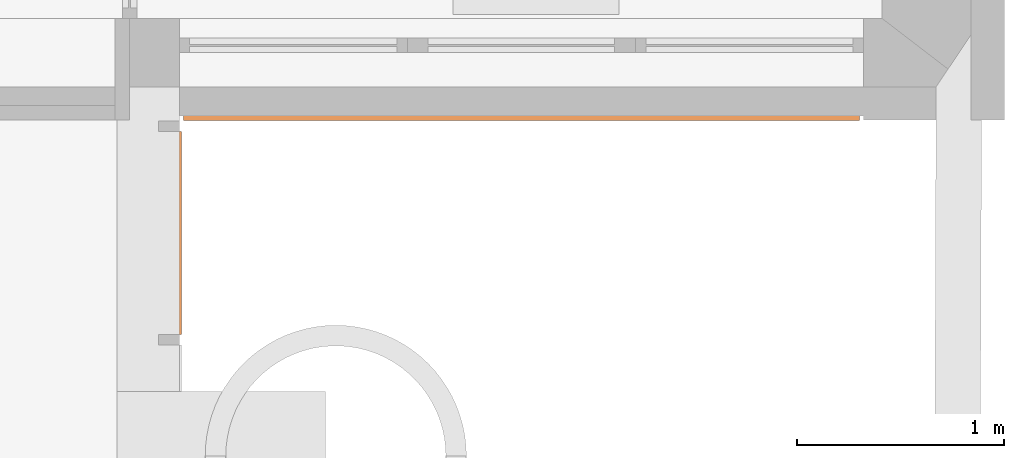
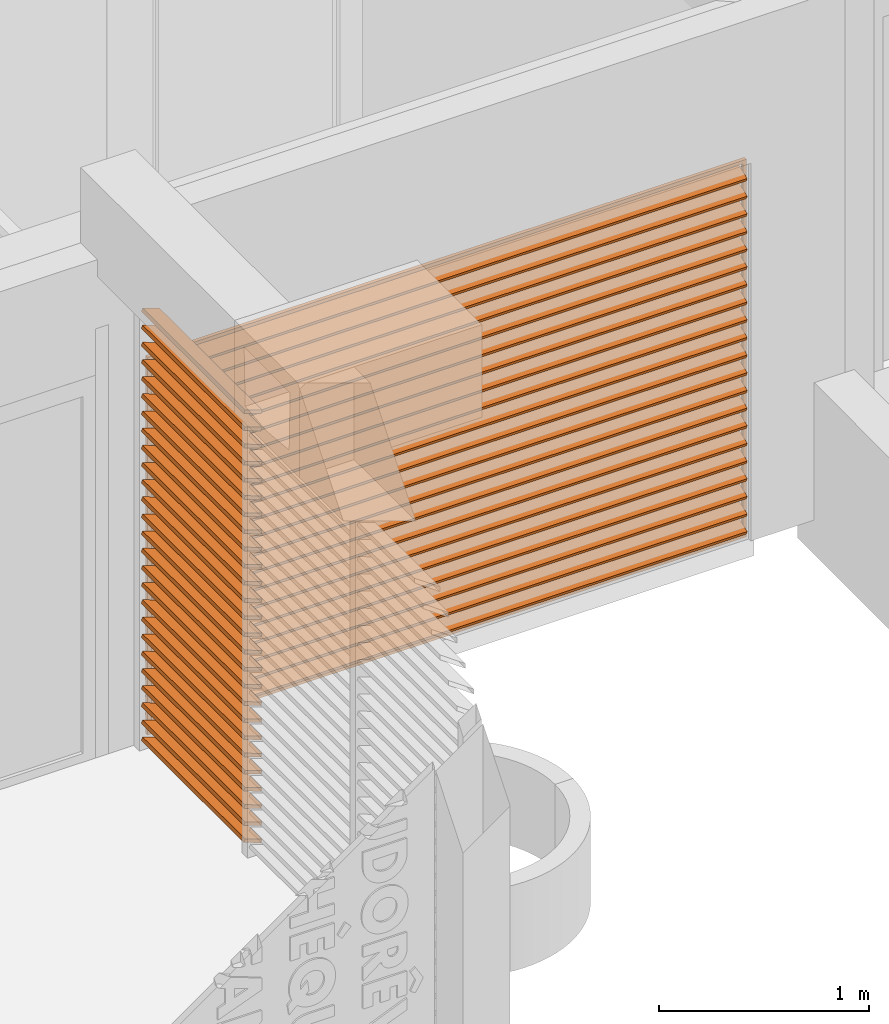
# One storey, part 59 of 64: 2 proxies.
"""IFC2X3 building model written with IfcOpenShell, lengths in metres."""

from ifc_helpers import new_model, entity, si_unit, converted_unit, derived_unit, direction, frame, frame_2d, origin, place, context, subcontext, project, spatial, polyline, rectangle, outline, extrude, source, transform, mapped, material, type_object, type_shapes, element, save


model = new_model("IFC2X3")

# Units and contexts
model_context = context("Model", 3, precision=1e-05, world=origin(), true_north=direction((6.123031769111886e-17, 1.0)))
body_context = subcontext(model_context, "Body", "Model", "MODEL_VIEW")
ifc_project = project(units=[si_unit("LENGTHUNIT", "METRE"), si_unit("AREAUNIT", "SQUARE_METRE"), si_unit("VOLUMEUNIT", "CUBIC_METRE"), converted_unit("PLANEANGLEUNIT", "DEGREE", entity("IfcRatioMeasure", 0.017453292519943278), si_unit("PLANEANGLEUNIT", "RADIAN"), dimensions=[0, 0, 0, 0, 0, 0, 0]), si_unit("MASSUNIT", "GRAM", prefix="KILO"), derived_unit("MASSDENSITYUNIT", [(si_unit("MASSUNIT", "GRAM", prefix="KILO"), 1), (si_unit("LENGTHUNIT", "METRE"), -3)]), derived_unit("MOMENTOFINERTIAUNIT", [(si_unit("LENGTHUNIT", "METRE"), 4)]), si_unit("TIMEUNIT", "SECOND"), si_unit("FREQUENCYUNIT", "HERTZ"), si_unit("THERMODYNAMICTEMPERATUREUNIT", "DEGREE_CELSIUS"), derived_unit("THERMALTRANSMITTANCEUNIT", [(si_unit("MASSUNIT", "GRAM", prefix="KILO"), 1), (si_unit("THERMODYNAMICTEMPERATUREUNIT", "KELVIN"), -1), (si_unit("TIMEUNIT", "SECOND"), -3)]), derived_unit("THERMALCONDUCTANCEUNIT", [(si_unit("MASSUNIT", "GRAM", prefix="KILO"), 1), (si_unit("LENGTHUNIT", "METRE"), 1), (si_unit("THERMODYNAMICTEMPERATUREUNIT", "KELVIN"), -1), (si_unit("TIMEUNIT", "SECOND"), -3)]), derived_unit("VOLUMETRICFLOWRATEUNIT", [(si_unit("LENGTHUNIT", "METRE"), 3), (si_unit("TIMEUNIT", "SECOND"), -1)]), derived_unit("MASSFLOWRATEUNIT", [(si_unit("MASSUNIT", "GRAM", prefix="KILO"), 1), (si_unit("TIMEUNIT", "SECOND"), -1)]), derived_unit("ROTATIONALFREQUENCYUNIT", [(si_unit("TIMEUNIT", "SECOND"), -1)]), si_unit("ELECTRICCURRENTUNIT", "AMPERE"), si_unit("ELECTRICVOLTAGEUNIT", "VOLT"), si_unit("POWERUNIT", "WATT"), si_unit("FORCEUNIT", "NEWTON", prefix="KILO"), si_unit("ILLUMINANCEUNIT", "LUX"), si_unit("LUMINOUSFLUXUNIT", "LUMEN"), si_unit("LUMINOUSINTENSITYUNIT", "CANDELA"), derived_unit("USERDEFINED", [(si_unit("MASSUNIT", "GRAM", prefix="KILO"), -1), (si_unit("LENGTHUNIT", "METRE"), -2), (si_unit("TIMEUNIT", "SECOND"), 3), (si_unit("LUMINOUSFLUXUNIT", "LUMEN"), 1)]), derived_unit("USERDEFINED", [(si_unit("MASSUNIT", "GRAM", prefix="KILO"), 1), (si_unit("LENGTHUNIT", "METRE"), 3), (si_unit("TIMEUNIT", "SECOND"), -3), (si_unit("ELECTRICCURRENTUNIT", "AMPERE"), -2)]), derived_unit("USERDEFINED", [(si_unit("LENGTHUNIT", "METRE"), 2), (si_unit("TIMEUNIT", "SECOND"), -2)]), derived_unit("SOUNDPOWERUNIT", [(si_unit("MASSUNIT", "GRAM", prefix="KILO"), 1), (si_unit("LENGTHUNIT", "METRE"), 2), (si_unit("TIMEUNIT", "SECOND"), -3)]), derived_unit("SOUNDPRESSUREUNIT", [(si_unit("MASSUNIT", "GRAM", prefix="KILO"), 1), (si_unit("LENGTHUNIT", "METRE"), -1), (si_unit("TIMEUNIT", "SECOND"), -2)]), derived_unit("LINEARVELOCITYUNIT", [(si_unit("LENGTHUNIT", "METRE"), 1), (si_unit("TIMEUNIT", "SECOND"), -1)]), si_unit("PRESSUREUNIT", "PASCAL"), derived_unit("USERDEFINED", [(si_unit("LENGTHUNIT", "METRE"), -2), (si_unit("MASSUNIT", "GRAM", prefix="KILO"), 1), (si_unit("TIMEUNIT", "SECOND"), -2)]), derived_unit("LINEARFORCEUNIT", [(si_unit("MASSUNIT", "GRAM", prefix="KILO"), 1), (si_unit("LENGTHUNIT", "METRE"), 1), (si_unit("TIMEUNIT", "SECOND"), -2), (si_unit("LENGTHUNIT", "METRE"), -1)]), derived_unit("PLANARFORCEUNIT", [(si_unit("MASSUNIT", "GRAM", prefix="KILO"), 1), (si_unit("LENGTHUNIT", "METRE"), 1), (si_unit("TIMEUNIT", "SECOND"), -2), (si_unit("LENGTHUNIT", "METRE"), -2)]), derived_unit("SPECIFICHEATCAPACITYUNIT", [(si_unit("LENGTHUNIT", "METRE"), 2), (si_unit("TIMEUNIT", "SECOND"), -2), (si_unit("THERMODYNAMICTEMPERATUREUNIT", "KELVIN"), -1)]), derived_unit("VAPORPERMEABILITYUNIT", [(si_unit("TIMEUNIT", "SECOND"), 1), (si_unit("LENGTHUNIT", "METRE"), -1)]), derived_unit("DYNAMICVISCOSITYUNIT", [(si_unit("MASSUNIT", "GRAM", prefix="KILO"), 1), (si_unit("LENGTHUNIT", "METRE"), -1), (si_unit("TIMEUNIT", "SECOND"), -1)]), derived_unit("THERMALEXPANSIONCOEFFICIENTUNIT", [(si_unit("THERMODYNAMICTEMPERATUREUNIT", "KELVIN"), -1)])], contexts=[model_context])

# Site, building, storey
site_placement = place(None, origin())
site = spatial("IfcSite", under=ifc_project, at=site_placement, Name="Default", CompositionType="ELEMENT")
building_placement = place(site_placement, origin())
building = spatial("IfcBuilding", under=site, at=building_placement, CompositionType="ELEMENT")
storey_placement = place(building_placement, origin())
storey = spatial("IfcBuildingStorey", under=building, at=storey_placement, Name="REZ-DE-CHAUSSÉE", CompositionType="ELEMENT", Elevation=0.0)

# Proxies
ifc_material_1 = material(Name="Bois - Chêne clair")
building_element_proxy_type_1 = type_object("IfcBuildingElementProxyType", Name="Symb-0003", PredefinedType="NOTDEFINED", material=ifc_material_1)
shared_shape_1 = source(origin(), body_context, "Body", "SweptSolid", [
    extrude(rectangle(XDim=0.01999999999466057, YDim=0.09999999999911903, at=frame_2d((0.0, 0.0), x_axis=(0.0, 1.0))), frame((124.54075228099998, 6.552209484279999, 2.55), z_axis=(0.0, 1.0, 0.0), x_axis=(-0.939692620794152, 0.0, 0.3420201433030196)), (0.0, 0.0, 1.0), 0.9799999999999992),
    extrude(rectangle(XDim=0.01999999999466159, YDim=0.0999999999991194, at=frame_2d((-9.367506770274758e-17, -2.5587171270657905e-16), x_axis=(0.0, 1.0))), frame((124.54075228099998, 6.552209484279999, 2.4499999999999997), z_axis=(0.0, 1.0, 0.0), x_axis=(-0.9396926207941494, 0.0, 0.3420201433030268)), (0.0, 0.0, 1.0), 0.9799999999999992),
    extrude(rectangle(XDim=0.019999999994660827, YDim=0.09999999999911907, at=frame_2d((-5.204170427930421e-17, -1.2663481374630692e-16), x_axis=(0.0, 1.0))), frame((124.54075228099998, 6.552209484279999, 2.3499999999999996), z_axis=(0.0, 1.0, 0.0), x_axis=(-0.9396926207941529, 0.0, 0.3420201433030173)), (0.0, 0.0, 1.0), 0.9799999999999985),
    extrude(rectangle(XDim=0.019999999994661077, YDim=0.09999999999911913, at=frame_2d((-1.3877787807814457e-16, -3.8077180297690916e-16), x_axis=(0.0, 1.0))), frame((124.54075228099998, 6.552209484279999, 2.25), z_axis=(0.0, 1.0, 0.0), x_axis=(-0.939692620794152, 0.0, 0.3420201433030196)), (0.0, 0.0, 1.0), 0.9799999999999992),
    extrude(rectangle(XDim=0.019999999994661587, YDim=0.09999999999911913, at=frame_2d((-1.4224732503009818e-16, -3.8250652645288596e-16), x_axis=(0.0, 1.0))), frame((124.54075228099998, 6.552209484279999, 2.1499999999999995), z_axis=(0.0, 1.0, 0.0), x_axis=(-0.939692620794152, 0.0, 0.3420201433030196)), (0.0, 0.0, 1.0), 0.9799999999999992),
    extrude(rectangle(XDim=0.019999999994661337, YDim=0.09999999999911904, at=frame_2d((-8.673617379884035e-17, -2.5413698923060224e-16), x_axis=(0.0, 1.0))), frame((124.54075228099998, 6.552209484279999, 2.05), z_axis=(0.0, 1.0, 0.0), x_axis=(-0.9396926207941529, 0.0, 0.3420201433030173)), (0.0, 0.0, 1.0), 0.9799999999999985),
    extrude(rectangle(XDim=0.019999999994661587, YDim=0.09999999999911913, at=frame_2d((-1.4224732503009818e-16, -3.8250652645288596e-16), x_axis=(0.0, 1.0))), frame((124.54075228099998, 6.552209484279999, 1.9499999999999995), z_axis=(0.0, 1.0, 0.0), x_axis=(-0.939692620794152, 0.0, 0.3420201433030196)), (0.0, 0.0, 1.0), 0.9799999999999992),
    extrude(rectangle(XDim=0.019999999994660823, YDim=0.09999999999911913, at=frame_2d((-4.85722573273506e-17, -1.2663481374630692e-16), x_axis=(0.0, 1.0))), frame((124.54075228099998, 6.552209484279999, 1.8499999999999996), z_axis=(0.0, 1.0, 0.0), x_axis=(-0.939692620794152, 0.0, 0.3420201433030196)), (0.0, 0.0, 1.0), 0.9799999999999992),
    extrude(rectangle(XDim=0.019999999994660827, YDim=0.09999999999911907, at=frame_2d((-5.204170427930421e-17, -1.2663481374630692e-16), x_axis=(0.0, 1.0))), frame((124.54075228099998, 6.552209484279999, 1.7499999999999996), z_axis=(0.0, 1.0, 0.0), x_axis=(-0.9396926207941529, 0.0, 0.3420201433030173)), (0.0, 0.0, 1.0), 0.9799999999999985),
    extrude(rectangle(XDim=0.01999999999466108, YDim=0.09999999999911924, at=frame_2d((-9.020562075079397e-17, -2.5587171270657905e-16), x_axis=(0.0, 1.0))), frame((124.54075228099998, 6.552209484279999, 1.6499999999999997), z_axis=(0.0, 1.0, 0.0), x_axis=(-0.9396926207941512, 0.0, 0.34202014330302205)), (0.0, 0.0, 1.0), 0.9799999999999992),
    extrude(rectangle(XDim=0.019999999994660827, YDim=0.09999999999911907, at=frame_2d((-5.204170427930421e-17, -1.2663481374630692e-16), x_axis=(0.0, 1.0))), frame((124.54075228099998, 6.552209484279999, 1.5499999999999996), z_axis=(0.0, 1.0, 0.0), x_axis=(-0.9396926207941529, 0.0, 0.3420201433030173)), (0.0, 0.0, 1.0), 0.9799999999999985),
    extrude(rectangle(XDim=0.019999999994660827, YDim=0.09999999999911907, at=frame_2d((-5.204170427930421e-17, -1.2663481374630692e-16), x_axis=(0.0, 1.0))), frame((124.54075228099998, 6.552209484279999, 1.4499999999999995), z_axis=(0.0, 1.0, 0.0), x_axis=(-0.9396926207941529, 0.0, 0.3420201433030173)), (0.0, 0.0, 1.0), 0.9799999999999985),
    extrude(rectangle(XDim=0.01999999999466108, YDim=0.09999999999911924, at=frame_2d((-9.020562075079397e-17, -2.5587171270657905e-16), x_axis=(0.0, 1.0))), frame((124.54075228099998, 6.552209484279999, 1.3499999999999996), z_axis=(0.0, 1.0, 0.0), x_axis=(-0.9396926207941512, 0.0, 0.34202014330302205)), (0.0, 0.0, 1.0), 0.9799999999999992),
    extrude(rectangle(XDim=0.019999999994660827, YDim=0.09999999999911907, at=frame_2d((-5.204170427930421e-17, -1.2663481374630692e-16), x_axis=(0.0, 1.0))), frame((124.54075228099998, 6.552209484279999, 1.2499999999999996), z_axis=(0.0, 1.0, 0.0), x_axis=(-0.9396926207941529, 0.0, 0.3420201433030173)), (0.0, 0.0, 1.0), 0.9799999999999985),
    extrude(rectangle(XDim=0.019999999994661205, YDim=0.09999999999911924, at=frame_2d((-9.367506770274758e-17, -2.5413698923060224e-16), x_axis=(0.0, 1.0))), frame((124.54075228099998, 6.552209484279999, 1.1499999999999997), z_axis=(0.0, 1.0, 0.0), x_axis=(-0.9396926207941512, 0.0, 0.34202014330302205)), (0.0, 0.0, 1.0), 0.9799999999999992),
    extrude(rectangle(XDim=0.019999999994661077, YDim=0.09999999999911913, at=frame_2d((-1.3877787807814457e-16, -3.8077180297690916e-16), x_axis=(0.0, 1.0))), frame((124.54075228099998, 6.552209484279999, 1.0499999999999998), z_axis=(0.0, 1.0, 0.0), x_axis=(-0.939692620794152, 0.0, 0.3420201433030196)), (0.0, 0.0, 1.0), 0.9799999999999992),
    extrude(rectangle(XDim=0.02000000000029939, YDim=0.09999999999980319, at=frame_2d((-1.4224732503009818e-16, -3.8250652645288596e-16), x_axis=(0.0, 1.0))), frame((124.54075228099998, 6.552209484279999, 0.9499999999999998), z_axis=(0.0, 1.0, 0.0), x_axis=(-0.939692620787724, 0.0, 0.3420201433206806)), (0.0, 0.0, 1.0), 0.9799999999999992),
    extrude(rectangle(XDim=0.02000000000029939, YDim=0.09999999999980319, at=frame_2d((-1.4224732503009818e-16, -3.8250652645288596e-16), x_axis=(0.0, 1.0))), frame((124.54075228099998, 6.552209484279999, 0.8499999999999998), z_axis=(0.0, 1.0, 0.0), x_axis=(-0.939692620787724, 0.0, 0.3420201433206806)), (0.0, 0.0, 1.0), 0.9799999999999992),
    extrude(rectangle(XDim=0.020000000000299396, YDim=0.09999999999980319, at=frame_2d((-1.1449174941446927e-16, -3.191891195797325e-16), x_axis=(0.0, 1.0))), frame((124.54075228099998, 6.552209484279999, 0.7499999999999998), z_axis=(0.0, 1.0, 0.0), x_axis=(-0.939692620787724, 0.0, 0.3420201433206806)), (0.0, 0.0, 1.0), 0.9799999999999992),
    extrude(rectangle(XDim=0.020000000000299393, YDim=0.09999999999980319, at=frame_2d((-9.367506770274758e-17, -2.5587171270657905e-16), x_axis=(0.0, 1.0))), frame((124.54075228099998, 6.552209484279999, 0.6499999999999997), z_axis=(0.0, 1.0, 0.0), x_axis=(-0.939692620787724, 0.0, 0.3420201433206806)), (0.0, 0.0, 1.0), 0.9799999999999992),
    extrude(rectangle(XDim=0.020000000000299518, YDim=0.09999999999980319, at=frame_2d((-8.673617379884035e-17, -2.220446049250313e-16), x_axis=(0.0, 1.0))), frame((124.54075228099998, 6.552209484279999, 0.5499999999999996), z_axis=(0.0, 1.0, 0.0), x_axis=(-0.9396926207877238, 0.0, 0.3420201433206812)), (0.0, 0.0, 1.0), 0.9799999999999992),
    extrude(rectangle(XDim=0.020000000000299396, YDim=0.09999999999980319, at=frame_2d((-7.979727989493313e-17, -2.220446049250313e-16), x_axis=(0.0, 1.0))), frame((124.54075228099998, 6.552209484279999, 0.4499999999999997), z_axis=(0.0, 1.0, 0.0), x_axis=(-0.9396926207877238, 0.0, 0.3420201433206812)), (0.0, 0.0, 1.0), 0.9799999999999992),
    extrude(rectangle(XDim=0.02000000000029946, YDim=0.09999999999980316, at=frame_2d((-6.938893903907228e-17, -1.9255430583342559e-16), x_axis=(0.0, 1.0))), frame((124.54075228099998, 6.552209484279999, 0.34999999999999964), z_axis=(0.0, 1.0, 0.0), x_axis=(-0.939692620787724, 0.0, 0.3420201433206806)), (0.0, 0.0, 1.0), 0.979999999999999),
    extrude(rectangle(XDim=0.02000000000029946, YDim=0.09999999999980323, at=frame_2d((-8.326672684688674e-17, -2.220446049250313e-16), x_axis=(0.0, 1.0))), frame((124.54075228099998, 6.552209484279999, 0.2499999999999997), z_axis=(0.0, 1.0, 0.0), x_axis=(-0.9396926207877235, 0.0, 0.34202014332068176)), (0.0, 0.0, 1.0), 0.979999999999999),
    extrude(rectangle(XDim=0.020000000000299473, YDim=0.09999999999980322, at=frame_2d((-8.326672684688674e-17, -2.393918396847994e-16), x_axis=(0.0, 1.0))), frame((124.54075228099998, 6.552209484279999, 0.14999999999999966), z_axis=(0.0, 1.0, 0.0), x_axis=(-0.9396926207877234, 0.0, 0.3420201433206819)), (0.0, 0.0, 1.0), 0.9799999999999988),
    extrude(rectangle(XDim=0.020000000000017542, YDim=0.09999999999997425, at=frame_2d((-9.020562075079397e-17, -2.454633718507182e-16), x_axis=(0.0, 1.0))), frame((124.54075228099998, 6.552209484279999, 0.0499999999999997), z_axis=(0.0, 1.0, 0.0), x_axis=(-0.9396926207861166, 0.0, 0.3420201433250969)), (0.0, 0.0, 1.0), 0.9799999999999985),
])
type_shapes(building_element_proxy_type_1, [shared_shape_1])
proxy_1_placement = place(storey_placement, origin())
element("IfcBuildingElementProxy", 1, at=proxy_1_placement, inside=storey, type_object=building_element_proxy_type_1, material=ifc_material_1, Name="Symb-0003:Symb-0003", ObjectType="Symb-0003:Symb-0003", context=body_context, shape_type="MappedRepresentation", body=[
    mapped(shared_shape_1, transform((0.0, 0.0, 0.0), scale=1.0)),
])
ifc_material_2 = material(Name="Peinture - Anthracite")
building_element_proxy_type_2 = type_object("IfcBuildingElementProxyType", Name="Symb-0003", PredefinedType="NOTDEFINED", material=ifc_material_2)
shared_shape_2 = source(origin(), body_context, "Body", "SweptSolid", [
    extrude(rectangle(XDim=0.020000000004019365, YDim=0.10285714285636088, at=frame_2d((5.065392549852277e-16, -1.8561541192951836e-16), x_axis=(0.0, 1.0))), frame((124.60075228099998, 7.63720948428, 2.1285714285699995), z_axis=(1.0, 0.0, 0.0), x_axis=(0.0, 0.939692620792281, 0.34202014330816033)), (0.0, 0.0, 1.0), 3.260000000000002),
    extrude(rectangle(XDim=0.019999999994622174, YDim=0.10285714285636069, at=frame_2d((5.065392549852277e-16, -1.8561541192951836e-16), x_axis=(0.0, 1.0))), frame((124.60075228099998, 7.63720948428, 2.025714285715), z_axis=(1.0, 0.0, 0.0), x_axis=(0.0, 0.9396926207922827, 0.3420201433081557)), (0.0, 0.0, 1.0), 3.260000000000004),
    extrude(rectangle(XDim=0.019999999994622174, YDim=0.1028571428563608, at=frame_2d((8.555378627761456e-13, 2.3489855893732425e-12), x_axis=(0.0, 1.0))), frame((124.60075228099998, 7.63720948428, 1.9228571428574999), z_axis=(1.0, 0.0, 0.0), x_axis=(0.0, 0.9396926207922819, 0.342020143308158)), (0.0, 0.0, 1.0), 3.260000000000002),
    extrude(rectangle(XDim=0.02000000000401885, YDim=0.10285714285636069, at=frame_2d((4.579669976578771e-16, -3.122502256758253e-16), x_axis=(0.0, 1.0))), frame((124.60075228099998, 7.63720948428, 1.8199999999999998), z_axis=(1.0, 0.0, 0.0), x_axis=(0.0, 0.9396926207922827, 0.3420201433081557)), (0.0, 0.0, 1.0), 3.260000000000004),
    extrude(rectangle(XDim=0.020000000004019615, YDim=0.102857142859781, at=frame_2d((-8.545664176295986e-13, -2.349480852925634e-12), x_axis=(0.0, 1.0))), frame((124.60075228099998, 7.63720948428, 1.7171428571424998), z_axis=(1.0, 0.0, 0.0), x_axis=(0.0, 0.9396926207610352, 0.34202014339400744)), (0.0, 0.0, 1.0), 3.260000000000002),
    extrude(rectangle(XDim=0.019999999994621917, YDim=0.1028571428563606, at=frame_2d((5.585809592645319e-16, -5.811323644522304e-17), x_axis=(0.0, 1.0))), frame((124.60075228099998, 7.63720948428, 1.6142857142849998), z_axis=(1.0, 0.0, 0.0), x_axis=(0.0, 0.9396926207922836, 0.34202014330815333)), (0.0, 0.0, 1.0), 3.260000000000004),
    extrude(rectangle(XDim=0.020000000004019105, YDim=0.10285714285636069, at=frame_2d((5.065392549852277e-16, -1.8474805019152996e-16), x_axis=(0.0, 1.0))), frame((124.60075228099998, 7.63720948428, 1.5114285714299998), z_axis=(1.0, 0.0, 0.0), x_axis=(0.0, 0.9396926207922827, 0.3420201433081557)), (0.0, 0.0, 1.0), 3.260000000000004),
    extrude(rectangle(XDim=0.02000000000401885, YDim=0.10285714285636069, at=frame_2d((5.551115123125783e-16, -5.811323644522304e-17), x_axis=(0.0, 1.0))), frame((124.60075228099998, 7.63720948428, 1.4085714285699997), z_axis=(1.0, 0.0, 0.0), x_axis=(0.0, 0.9396926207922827, 0.3420201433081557)), (0.0, 0.0, 1.0), 3.260000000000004),
    extrude(rectangle(XDim=0.019999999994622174, YDim=0.1028571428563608, at=frame_2d((5.065392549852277e-16, -1.8561541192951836e-16), x_axis=(0.0, 1.0))), frame((124.60075228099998, 7.63720948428, 1.3057142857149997), z_axis=(1.0, 0.0, 0.0), x_axis=(0.0, 0.9396926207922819, 0.342020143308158)), (0.0, 0.0, 1.0), 3.260000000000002),
    extrude(rectangle(XDim=0.019999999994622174, YDim=0.10285714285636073, at=frame_2d((8.555899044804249e-13, 2.349112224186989e-12), x_axis=(0.0, 1.0))), frame((124.60075228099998, 7.63720948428, 1.2028571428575), z_axis=(1.0, 0.0, 0.0), x_axis=(0.0, 0.9396926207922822, 0.34202014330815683)), (0.0, 0.0, 1.0), 3.260000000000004),
    extrude(rectangle(XDim=0.020000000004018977, YDim=0.10285714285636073, at=frame_2d((5.169475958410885e-16, -1.8474805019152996e-16), x_axis=(0.0, 1.0))), frame((124.60075228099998, 7.63720948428, 1.0999999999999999), z_axis=(1.0, 0.0, 0.0), x_axis=(0.0, 0.9396926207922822, 0.34202014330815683)), (0.0, 0.0, 1.0), 3.260000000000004),
    extrude(rectangle(XDim=0.020000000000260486, YDim=0.10285714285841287, at=frame_2d((-5.125344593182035e-13, -1.4097629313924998e-12), x_axis=(0.0, 1.0))), frame((124.60075228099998, 7.63720948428, 0.9971428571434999), z_axis=(1.0, 0.0, 0.0), x_axis=(0.0, 0.9396926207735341, 0.34202014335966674)), (0.0, 0.0, 1.0), 3.260000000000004),
    extrude(rectangle(XDim=0.020000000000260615, YDim=0.10285714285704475, at=frame_2d((4.822531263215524e-16, -2.5153490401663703e-16), x_axis=(0.0, 1.0))), frame((124.60075228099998, 7.63720948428, 0.8942857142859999), z_axis=(1.0, 0.0, 0.0), x_axis=(0.0, 0.9396926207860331, 0.34202014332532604)), (0.0, 0.0, 1.0), 3.260000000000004),
    extrude(rectangle(XDim=0.019999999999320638, YDim=0.10285714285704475, at=frame_2d((5.273559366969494e-16, -1.222980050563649e-16), x_axis=(0.0, 1.0))), frame((124.60075228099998, 7.63720948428, 0.7914285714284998), z_axis=(1.0, 0.0, 0.0), x_axis=(0.0, 0.9396926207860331, 0.34202014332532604)), (0.0, 0.0, 1.0), 3.260000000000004),
    extrude(rectangle(XDim=0.019999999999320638, YDim=0.10285714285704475, at=frame_2d((5.273559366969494e-16, -1.222980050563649e-16), x_axis=(0.0, 1.0))), frame((124.60075228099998, 7.63720948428, 0.6885714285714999), z_axis=(1.0, 0.0, 0.0), x_axis=(0.0, 0.9396926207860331, 0.34202014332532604)), (0.0, 0.0, 1.0), 3.260000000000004),
    extrude(rectangle(XDim=0.020000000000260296, YDim=0.10285714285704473, at=frame_2d((5.065392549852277e-16, -1.8561541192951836e-16), x_axis=(0.0, 1.0))), frame((124.60075228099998, 7.63720948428, 0.585714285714), z_axis=(1.0, 0.0, 0.0), x_axis=(0.0, 0.9396926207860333, 0.34202014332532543)), (0.0, 0.0, 1.0), 3.260000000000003),
    extrude(rectangle(XDim=0.020000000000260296, YDim=0.10285714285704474, at=frame_2d((5.065392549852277e-16, -1.8648277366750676e-16), x_axis=(0.0, 1.0))), frame((124.60075228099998, 7.63720948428, 0.48285714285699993), z_axis=(1.0, 0.0, 0.0), x_axis=(0.0, 0.9396926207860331, 0.34202014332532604)), (0.0, 0.0, 1.0), 3.260000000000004),
    extrude(rectangle(XDim=0.020000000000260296, YDim=0.10285714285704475, at=frame_2d((5.134781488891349e-16, -1.5265566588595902e-16), x_axis=(0.0, 1.0))), frame((124.60075228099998, 7.63720948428, 0.37999999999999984), z_axis=(1.0, 0.0, 0.0), x_axis=(0.0, 0.9396926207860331, 0.34202014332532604)), (0.0, 0.0, 1.0), 3.260000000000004),
    extrude(rectangle(XDim=0.020000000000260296, YDim=0.10285714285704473, at=frame_2d((5.169475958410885e-16, -1.5439038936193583e-16), x_axis=(0.0, 1.0))), frame((124.60075228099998, 7.63720948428, 0.2771428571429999), z_axis=(1.0, 0.0, 0.0), x_axis=(0.0, 0.9396926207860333, 0.34202014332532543)), (0.0, 0.0, 1.0), 3.260000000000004),
    extrude(rectangle(XDim=0.02000000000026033, YDim=0.10285714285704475, at=frame_2d((5.204170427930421e-16, -1.5352302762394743e-16), x_axis=(0.0, 1.0))), frame((124.60075228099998, 7.63720948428, 0.1742857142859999), z_axis=(1.0, 0.0, 0.0), x_axis=(0.0, 0.9396926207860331, 0.3420201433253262)), (0.0, 0.0, 1.0), 3.260000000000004),
    extrude(rectangle(XDim=0.01999999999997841, YDim=0.10285714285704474, at=frame_2d((9.065664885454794e-15, 2.33138161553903e-14), x_axis=(0.0, 1.0))), frame((124.60075228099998, 7.63720948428, 0.07142857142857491), z_axis=(1.0, 0.0, 0.0), x_axis=(0.0, 0.9396926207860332, 0.3420201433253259)), (0.0, 0.0, 1.0), 3.260000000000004),
    extrude(outline(polyline([(-1.1, -1.6500000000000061), (1.1, -1.6500000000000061), (1.1, 1.6499999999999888), (-1.1, 1.6499999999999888), (-1.1, -1.6500000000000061)]), holes=[polyline([(-1.08, 1.6299999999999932), (1.08, 1.6299999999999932), (1.08, -1.6300000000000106), (-1.08, -1.6300000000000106), (-1.08, 1.6299999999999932)])]), frame((126.23075228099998, 7.62720948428, 1.1), z_axis=(0.0, 1.0, 0.0), x_axis=(0.0, 0.0, -1.0)), (0.0, 0.0, 1.0), 0.019999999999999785),
])
type_shapes(building_element_proxy_type_2, [shared_shape_2])
proxy_2_placement = place(storey_placement, origin())
element("IfcBuildingElementProxy", 2, at=proxy_2_placement, inside=storey, type_object=building_element_proxy_type_2, material=ifc_material_2, Name="Symb-0003 46987:Symb-0003 46987", ObjectType="Symb-0003 46987:Symb-0003 46987", context=body_context, shape_type="MappedRepresentation", body=[
    mapped(shared_shape_2, transform((0.0, 0.0, 0.0), scale=1.0)),
])

save(model, "model.ifc")
